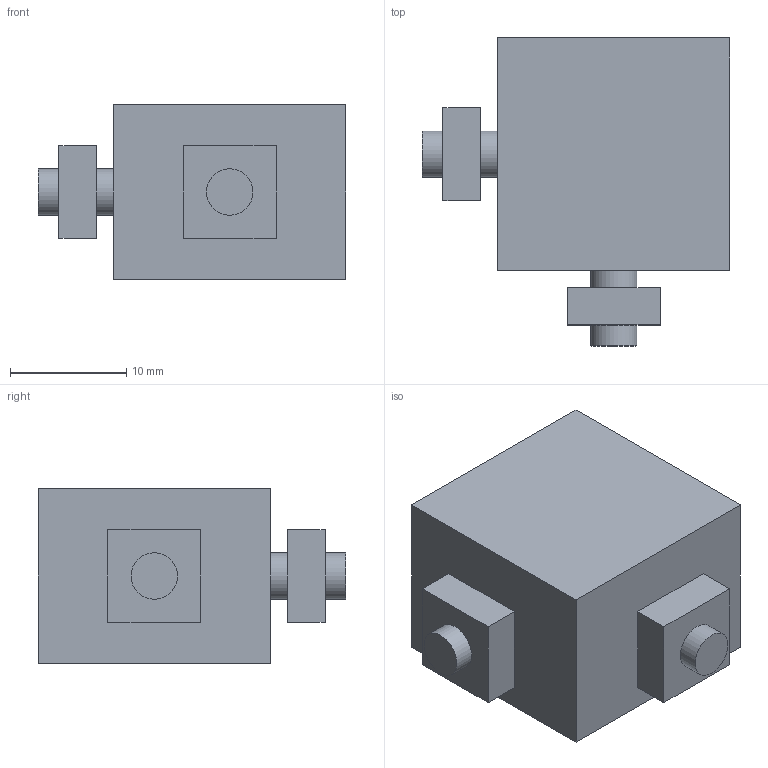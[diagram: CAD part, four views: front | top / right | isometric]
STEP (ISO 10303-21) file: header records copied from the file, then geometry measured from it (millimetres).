
FILE_DESCRIPTION((''),'2;1');
FILE_NAME('C:\Documents and Settings\古川典政\My Documents\Inventor\HP用\MasterData\BRACKET\M4\ABLB-2015-4.stp','2008-07-30T13:56:54',('ÐT'),(''),'Autodesk Inventor 2008','Autodesk Inventor 2008','');
FILE_SCHEMA(('AUTOMOTIVE_DESIGN { 1 0 10303 214 1 1 1 1 }'));
Length unit declared in the file: millimetre
Products named in the file (6): ABLB-2015-4; ABLB-2015-41; ABLB-2015-42; ABLB-2015-43; ABLB-2015-44; ABLB-2015-45
Assembly tree (5 placements, depth 2):
  ABLB-2015-4
    ABLB-2015-41
    ABLB-2015-42
    ABLB-2015-43
    ABLB-2015-44
    ABLB-2015-45
Bounding box: 26.5 x 26.5 x 15 mm (x, y, z)
Volume: 5271.9 mm3; surface area: 3674.6 mm2
Topology: 5 solids, 5 shells, 38 faces, 78 edges, 52 vertices
Faces by surface type: plane 24, bspline 10, cylinder 4
Full cylindrical faces by diameter (mm): 4 x2, 7 x2
Entity records: 1188 total; most frequent: CARTESIAN_POINT 297, DIRECTION 162, ORIENTED_EDGE 120, AXIS2_PLACEMENT_3D 63, EDGE_LOOP 62, EDGE_CURVE 60, VERTEX_POINT 46, FACE_OUTER_BOUND 38
